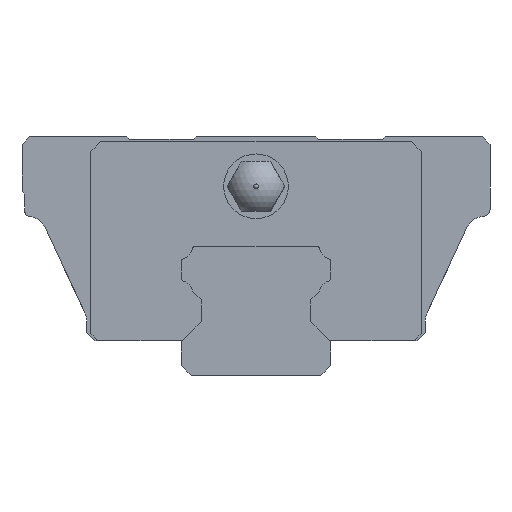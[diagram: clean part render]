
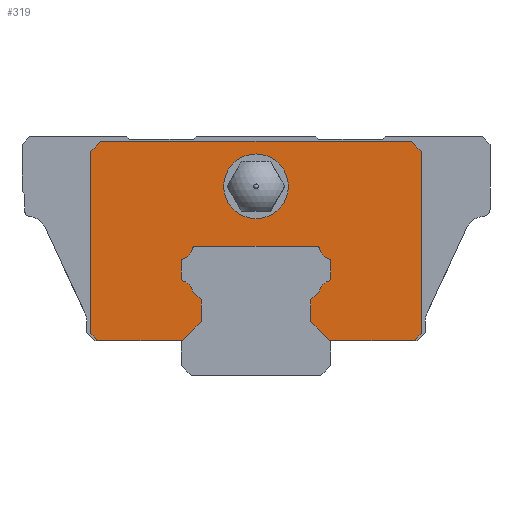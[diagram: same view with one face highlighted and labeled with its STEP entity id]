
A CAD part, front view. The second image highlights one B-rep face of the part: STEP entity #319.
In plain terms, the highlighted planar face has unit normal (0, -1, 0).
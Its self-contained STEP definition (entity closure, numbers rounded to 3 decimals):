
#319=ADVANCED_FACE('',(#686,#687),#688,.T.);
#686=FACE_OUTER_BOUND('',#1101,.T.);
#687=FACE_BOUND('',#1102,.T.);
#688=PLANE('',#1103);
#1101=EDGE_LOOP('',(#2412,#2413,#2414,#2415,#2416,#2417,#2418,#2419,#2420,#2421,#2422,#2423,#2424,#2425,#2426,#2427,#2428,#2429,#2430,#2431,#2432,#2433,#2434,#2435,#2436,#2437,#2438,#2439));
#1102=EDGE_LOOP('',(#2440,#2441,#2442));
#1103=AXIS2_PLACEMENT_3D('',#2443,#2444,#2445);
#2412=ORIENTED_EDGE('',*,*,#3330,.F.);
#2413=ORIENTED_EDGE('',*,*,#3331,.F.);
#2414=ORIENTED_EDGE('',*,*,#3332,.F.);
#2415=ORIENTED_EDGE('',*,*,#3120,.F.);
#2416=ORIENTED_EDGE('',*,*,#3246,.F.);
#2417=ORIENTED_EDGE('',*,*,#3130,.F.);
#2418=ORIENTED_EDGE('',*,*,#3124,.F.);
#2419=ORIENTED_EDGE('',*,*,#3128,.F.);
#2420=ORIENTED_EDGE('',*,*,#3333,.F.);
#2421=ORIENTED_EDGE('',*,*,#3334,.F.);
#2422=ORIENTED_EDGE('',*,*,#3335,.F.);
#2423=ORIENTED_EDGE('',*,*,#3116,.F.);
#2424=ORIENTED_EDGE('',*,*,#3140,.F.);
#2425=ORIENTED_EDGE('',*,*,#3134,.F.);
#2426=ORIENTED_EDGE('',*,*,#3138,.F.);
#2427=ORIENTED_EDGE('',*,*,#3304,.F.);
#2428=ORIENTED_EDGE('',*,*,#3280,.F.);
#2429=ORIENTED_EDGE('',*,*,#3203,.F.);
#2430=ORIENTED_EDGE('',*,*,#3336,.F.);
#2431=ORIENTED_EDGE('',*,*,#3315,.T.);
#2432=ORIENTED_EDGE('',*,*,#3337,.T.);
#2433=ORIENTED_EDGE('',*,*,#3188,.T.);
#2434=ORIENTED_EDGE('',*,*,#3160,.T.);
#2435=ORIENTED_EDGE('',*,*,#3301,.T.);
#2436=ORIENTED_EDGE('',*,*,#3329,.T.);
#2437=ORIENTED_EDGE('',*,*,#3209,.T.);
#2438=ORIENTED_EDGE('',*,*,#3217,.T.);
#2439=ORIENTED_EDGE('',*,*,#3236,.T.);
#2440=ORIENTED_EDGE('',*,*,#3338,.F.);
#2441=ORIENTED_EDGE('',*,*,#3339,.F.);
#2442=ORIENTED_EDGE('',*,*,#3013,.F.);
#2443=CARTESIAN_POINT('',(0.0,0.0,19.));
#2444=DIRECTION('',(0.0,-1.0,0.0));
#2445=DIRECTION('',(0.0,0.0,-1.0));
#3013=EDGE_CURVE('',#3660,#3663,#3664,.T.);
#3116=EDGE_CURVE('',#3857,#3859,#3860,.T.);
#3120=EDGE_CURVE('',#3865,#3867,#3868,.T.);
#3124=EDGE_CURVE('',#3873,#3875,#3876,.T.);
#3128=EDGE_CURVE('',#3881,#3873,#3883,.T.);
#3130=EDGE_CURVE('',#3875,#3885,#3886,.T.);
#3134=EDGE_CURVE('',#3891,#3893,#3894,.T.);
#3138=EDGE_CURVE('',#3899,#3891,#3901,.T.);
#3140=EDGE_CURVE('',#3893,#3857,#3903,.T.);
#3160=EDGE_CURVE('',#3935,#3933,#3936,.T.);
#3188=EDGE_CURVE('',#3981,#3935,#3982,.T.);
#3203=EDGE_CURVE('',#4007,#4009,#4010,.T.);
#3209=EDGE_CURVE('',#4020,#4018,#4021,.T.);
#3217=EDGE_CURVE('',#4018,#4031,#4033,.T.);
#3236=EDGE_CURVE('',#4031,#4061,#4063,.T.);
#3246=EDGE_CURVE('',#3885,#3865,#4078,.T.);
#3280=EDGE_CURVE('',#4009,#4131,#4132,.T.);
#3301=EDGE_CURVE('',#3933,#4161,#4163,.T.);
#3304=EDGE_CURVE('',#4131,#3899,#4166,.T.);
#3315=EDGE_CURVE('',#4183,#4181,#4184,.T.);
#3329=EDGE_CURVE('',#4161,#4020,#4204,.T.);
#3330=EDGE_CURVE('',#4205,#4061,#4206,.T.);
#3331=EDGE_CURVE('',#4207,#4205,#4208,.T.);
#3332=EDGE_CURVE('',#3867,#4207,#4209,.T.);
#3333=EDGE_CURVE('',#4210,#3881,#4211,.T.);
#3334=EDGE_CURVE('',#4212,#4210,#4213,.T.);
#3335=EDGE_CURVE('',#3859,#4212,#4214,.T.);
#3336=EDGE_CURVE('',#4183,#4007,#4215,.T.);
#3337=EDGE_CURVE('',#4181,#3981,#4216,.T.);
#3338=EDGE_CURVE('',#4217,#3660,#4218,.T.);
#3339=EDGE_CURVE('',#3663,#4217,#4219,.T.);
#3660=VERTEX_POINT('',#4645);
#3663=VERTEX_POINT('',#4649);
#3664=CIRCLE('',#4650,3.25);
#3857=VERTEX_POINT('',#4915);
#3859=VERTEX_POINT('',#4918);
#3860=CIRCLE('',#4919,1.4);
#3865=VERTEX_POINT('',#4925);
#3867=VERTEX_POINT('',#4928);
#3868=CIRCLE('',#4929,1.4);
#3873=VERTEX_POINT('',#4935);
#3875=VERTEX_POINT('',#4938);
#3876=CIRCLE('',#4939,0.3);
#3881=VERTEX_POINT('',#4945);
#3883=CIRCLE('',#4948,1.4);
#3885=VERTEX_POINT('',#4950);
#3886=LINE('',#4951,#4952);
#3891=VERTEX_POINT('',#4959);
#3893=VERTEX_POINT('',#4962);
#3894=LINE('',#4963,#4964);
#3899=VERTEX_POINT('',#4971);
#3901=CIRCLE('',#4974,0.3);
#3903=CIRCLE('',#4976,0.3);
#3933=VERTEX_POINT('',#5015);
#3935=VERTEX_POINT('',#5018);
#3936=LINE('',#5019,#5020);
#3981=VERTEX_POINT('',#5083);
#3982=LINE('',#5084,#5085);
#4007=VERTEX_POINT('',#5119);
#4009=VERTEX_POINT('',#5122);
#4010=LINE('',#5123,#5124);
#4018=VERTEX_POINT('',#5135);
#4020=VERTEX_POINT('',#5138);
#4021=LINE('',#5139,#5140);
#4031=VERTEX_POINT('',#5154);
#4033=LINE('',#5157,#5158);
#4061=VERTEX_POINT('',#5197);
#4063=LINE('',#5200,#5201);
#4078=CIRCLE('',#5223,0.3);
#4131=VERTEX_POINT('',#5305);
#4132=LINE('',#5306,#5307);
#4161=VERTEX_POINT('',#5360);
#4163=LINE('',#5363,#5364);
#4166=CIRCLE('',#5367,1.4);
#4181=VERTEX_POINT('',#5389);
#4183=VERTEX_POINT('',#5392);
#4184=LINE('',#5393,#5394);
#4204=LINE('',#5424,#5425);
#4205=VERTEX_POINT('',#5426);
#4206=LINE('',#5427,#5428);
#4207=VERTEX_POINT('',#5429);
#4208=LINE('',#5430,#5431);
#4209=LINE('',#5432,#5433);
#4210=VERTEX_POINT('',#5434);
#4211=CIRCLE('',#5435,0.3);
#4212=VERTEX_POINT('',#5436);
#4213=LINE('',#5437,#5438);
#4214=CIRCLE('',#5439,0.3);
#4215=LINE('',#5440,#5441);
#4216=LINE('',#5442,#5443);
#4217=VERTEX_POINT('',#5444);
#4218=CIRCLE('',#5445,3.25);
#4219=CIRCLE('',#5446,3.25);
#4645=CARTESIAN_POINT('',(0.,0.0,22.25));
#4649=CARTESIAN_POINT('',(0.,0.0,15.75));
#4650=AXIS2_PLACEMENT_3D('',#5866,#5867,#5868);
#4915=CARTESIAN_POINT('',(7.295,0.0,11.712));
#4918=CARTESIAN_POINT('',(6.368,0.0,12.76));
#4919=AXIS2_PLACEMENT_3D('',#6056,#6057,#6058);
#4925=CARTESIAN_POINT('',(-7.295,0.0,9.488));
#4928=CARTESIAN_POINT('',(-6.376,0.0,8.476));
#4929=AXIS2_PLACEMENT_3D('',#6064,#6065,#6066);
#4935=CARTESIAN_POINT('',(-7.295,0.0,11.712));
#4938=CARTESIAN_POINT('',(-7.5,0.0,11.428));
#4939=AXIS2_PLACEMENT_3D('',#6072,#6073,#6074);
#4945=CARTESIAN_POINT('',(-6.368,0.0,12.76));
#4948=AXIS2_PLACEMENT_3D('',#6080,#6081,#6082);
#4950=CARTESIAN_POINT('',(-7.5,0.0,9.772));
#4951=CARTESIAN_POINT('',(-7.5,0.0,19.));
#4952=VECTOR('',#6086,1000.0);
#4959=CARTESIAN_POINT('',(7.5,0.0,9.772));
#4962=CARTESIAN_POINT('',(7.5,0.0,11.428));
#4963=CARTESIAN_POINT('',(7.5,0.0,19.));
#4964=VECTOR('',#6090,1000.0);
#4971=CARTESIAN_POINT('',(7.295,0.0,9.488));
#4974=AXIS2_PLACEMENT_3D('',#6094,#6095,#6096);
#4976=AXIS2_PLACEMENT_3D('',#6100,#6101,#6102);
#5015=CARTESIAN_POINT('',(15.6,0.0,23.5));
#5018=CARTESIAN_POINT('',(16.6,0.0,22.5));
#5019=CARTESIAN_POINT('',(16.6,0.0,22.5));
#5020=VECTOR('',#6140,1000.0);
#5083=CARTESIAN_POINT('',(16.6,0.0,4.2));
#5084=CARTESIAN_POINT('',(16.6,0.0,4.2));
#5085=VECTOR('',#6186,1000.0);
#5119=CARTESIAN_POINT('',(5.5,0.0,5.4));
#5122=CARTESIAN_POINT('',(5.5,0.0,7.6));
#5123=CARTESIAN_POINT('',(5.5,0.0,19.));
#5124=VECTOR('',#6209,1000.0);
#5135=CARTESIAN_POINT('',(-16.6,0.0,4.2));
#5138=CARTESIAN_POINT('',(-16.6,0.0,22.5));
#5139=CARTESIAN_POINT('',(-16.6,0.0,22.5));
#5140=VECTOR('',#6217,1000.0);
#5154=CARTESIAN_POINT('',(-15.9,0.0,3.5));
#5157=CARTESIAN_POINT('',(-16.6,0.0,4.2));
#5158=VECTOR('',#6229,1000.0);
#5197=CARTESIAN_POINT('',(-7.4,0.0,3.5));
#5200=CARTESIAN_POINT('',(-15.9,0.0,3.5));
#5201=VECTOR('',#6260,1000.0);
#5223=AXIS2_PLACEMENT_3D('',#6274,#6275,#6276);
#5305=CARTESIAN_POINT('',(6.376,0.0,8.476));
#5306=CARTESIAN_POINT('',(8.45,0.0,10.55));
#5307=VECTOR('',#6327,1000.0);
#5360=CARTESIAN_POINT('',(-15.6,0.0,23.5));
#5363=CARTESIAN_POINT('',(15.6,0.0,23.5));
#5364=VECTOR('',#6353,1000.0);
#5367=AXIS2_PLACEMENT_3D('',#6360,#6361,#6362);
#5389=CARTESIAN_POINT('',(15.9,0.0,3.5));
#5392=CARTESIAN_POINT('',(7.4,0.0,3.5));
#5393=CARTESIAN_POINT('',(-15.9,0.0,3.5));
#5394=VECTOR('',#6377,1000.0);
#5424=CARTESIAN_POINT('',(-15.6,0.0,23.5));
#5425=VECTOR('',#6397,1000.0);
#5426=CARTESIAN_POINT('',(-5.5,0.0,5.4));
#5427=CARTESIAN_POINT('',(4.05,0.0,14.95));
#5428=VECTOR('',#6398,1000.0);
#5429=CARTESIAN_POINT('',(-5.5,0.0,7.6));
#5430=CARTESIAN_POINT('',(-5.5,0.0,19.));
#5431=VECTOR('',#6399,1000.0);
#5432=CARTESIAN_POINT('',(-8.45,0.0,10.55));
#5433=VECTOR('',#6400,1000.0);
#5434=CARTESIAN_POINT('',(-6.074,0.0,13.0));
#5435=AXIS2_PLACEMENT_3D('',#6401,#6402,#6403);
#5436=CARTESIAN_POINT('',(6.074,0.0,13.));
#5437=CARTESIAN_POINT('',(0.0,0.0,13.0));
#5438=VECTOR('',#6404,1000.0);
#5439=AXIS2_PLACEMENT_3D('',#6405,#6406,#6407);
#5440=CARTESIAN_POINT('',(-4.05,0.0,14.95));
#5441=VECTOR('',#6408,1000.0);
#5442=CARTESIAN_POINT('',(15.9,0.0,3.5));
#5443=VECTOR('',#6409,1000.0);
#5444=CARTESIAN_POINT('',(3.25,0.0,19.));
#5445=AXIS2_PLACEMENT_3D('',#6410,#6411,#6412);
#5446=AXIS2_PLACEMENT_3D('',#6413,#6414,#6415);
#5866=CARTESIAN_POINT('',(0.0,0.0,19.));
#5867=DIRECTION('',(0.0,-1.0,0.0));
#5868=DIRECTION('',(1.0,0.0,0.0));
#6056=CARTESIAN_POINT('',(7.74,0.0,13.04));
#6057=DIRECTION('',(0.0,1.0,0.0));
#6058=DIRECTION('',(0.0,0.0,-1.0));
#6064=CARTESIAN_POINT('',(-7.74,0.0,8.16));
#6065=DIRECTION('',(0.0,1.0,0.0));
#6066=DIRECTION('',(0.0,0.0,-1.0));
#6072=CARTESIAN_POINT('',(-7.2,0.0,11.428));
#6073=DIRECTION('',(0.0,-1.0,0.0));
#6074=DIRECTION('',(0.0,0.0,-1.0));
#6080=CARTESIAN_POINT('',(-7.74,0.0,13.04));
#6081=DIRECTION('',(0.0,1.0,0.0));
#6082=DIRECTION('',(0.0,0.0,-1.0));
#6086=DIRECTION('',(0.0,0.0,-1.0));
#6090=DIRECTION('',(0.0,0.0,1.0));
#6094=CARTESIAN_POINT('',(7.2,0.0,9.772));
#6095=DIRECTION('',(0.0,-1.0,0.0));
#6096=DIRECTION('',(0.0,0.0,-1.0));
#6100=CARTESIAN_POINT('',(7.2,0.0,11.428));
#6101=DIRECTION('',(0.0,-1.0,0.0));
#6102=DIRECTION('',(0.0,0.0,-1.0));
#6140=DIRECTION('',(-0.707,0.0,0.707));
#6186=DIRECTION('',(0.0,0.0,1.0));
#6209=DIRECTION('',(0.0,0.0,1.0));
#6217=DIRECTION('',(0.0,0.0,-1.0));
#6229=DIRECTION('',(0.707,0.0,-0.707));
#6260=DIRECTION('',(1.0,0.0,0.));
#6274=CARTESIAN_POINT('',(-7.2,0.0,9.772));
#6275=DIRECTION('',(0.0,-1.0,0.0));
#6276=DIRECTION('',(0.0,0.0,-1.0));
#6327=DIRECTION('',(0.707,0.0,0.707));
#6353=DIRECTION('',(-1.0,0.0,0.0));
#6360=CARTESIAN_POINT('',(7.74,0.0,8.16));
#6361=DIRECTION('',(0.0,1.0,0.0));
#6362=DIRECTION('',(0.0,0.0,-1.0));
#6377=DIRECTION('',(1.0,0.0,0.));
#6397=DIRECTION('',(-0.707,0.0,-0.707));
#6398=DIRECTION('',(-0.707,0.0,-0.707));
#6399=DIRECTION('',(0.0,0.0,-1.0));
#6400=DIRECTION('',(0.707,0.0,-0.707));
#6401=CARTESIAN_POINT('',(-6.074,0.0,12.7));
#6402=DIRECTION('',(0.0,-1.0,0.0));
#6403=DIRECTION('',(0.0,0.0,-1.0));
#6404=DIRECTION('',(-1.0,0.0,0.0));
#6405=CARTESIAN_POINT('',(6.074,0.0,12.7));
#6406=DIRECTION('',(0.0,-1.0,0.0));
#6407=DIRECTION('',(0.0,0.0,-1.0));
#6408=DIRECTION('',(-0.707,0.0,0.707));
#6409=DIRECTION('',(0.707,0.0,0.707));
#6410=CARTESIAN_POINT('',(0.0,0.0,19.));
#6411=DIRECTION('',(0.0,-1.0,0.0));
#6412=DIRECTION('',(1.0,0.0,0.0));
#6413=CARTESIAN_POINT('',(0.0,0.0,19.));
#6414=DIRECTION('',(0.0,-1.0,0.0));
#6415=DIRECTION('',(1.0,0.0,0.0));
